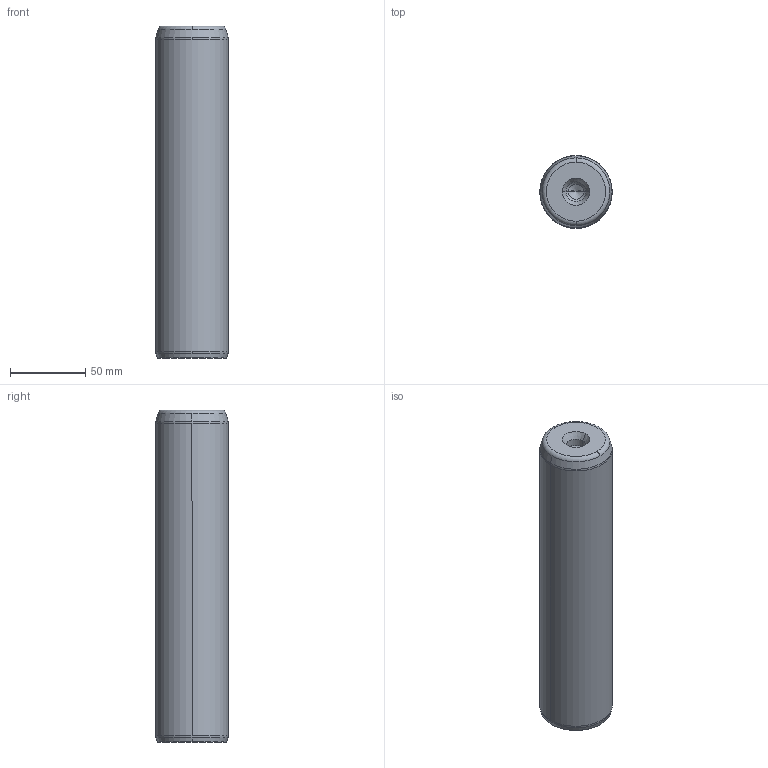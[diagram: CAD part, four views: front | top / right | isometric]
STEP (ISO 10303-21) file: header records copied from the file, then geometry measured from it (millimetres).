
FILE_DESCRIPTION((''),'2;1');
FILE_NAME('P10_048_220.stp','2008-12-23T16:08:15',(''),(''),'Mechanical Desktop 2009','Mechanical Desktop 2009',', , ');
FILE_SCHEMA(('CONFIG_CONTROL_DESIGN'));
Length unit declared in the file: millimetre
Products named in the file (5): Product; ProductAA; blmdl1; ProductA; blmdl1A
Assembly tree (2 placements, depth 3):
  Product
    ProductAA
      blmdl1
  ProductA
  blmdl1A
Bounding box: 48 x 48 x 220 mm (x, y, z)
Volume: 392536.2 mm3; surface area: 37452.1 mm2
Topology: 1 solids, 1 shells, 26 faces, 66 edges, 41 vertices
Faces by surface type: cone 10, torus 8, cylinder 6, plane 2
Entity records: 1012 total; most frequent: DIRECTION 170, CARTESIAN_POINT 134, ORIENTED_EDGE 128, AXIS2_PLACEMENT_3D 77, EDGE_CURVE 64, CIRCLE 48, VERTEX_POINT 41, EDGE_LOOP 27
